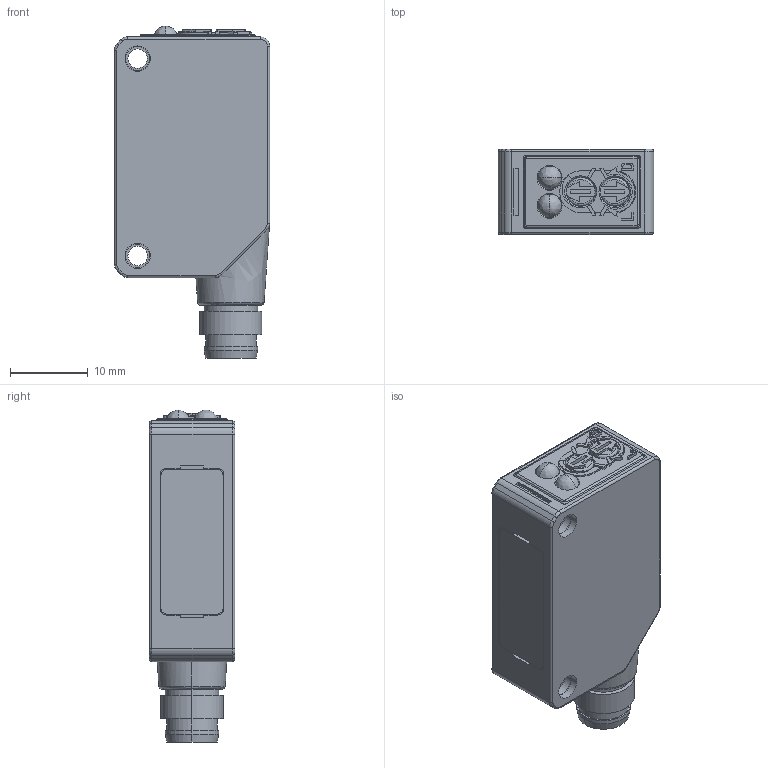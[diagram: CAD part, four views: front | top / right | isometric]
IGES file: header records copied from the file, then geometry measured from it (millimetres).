
Start section: Elysium IGES Interface
Global section: file name: 135H\\fadev.optexgroup.co.jp\技術情報\01_CAD\CAD_data\Horiike_fanas_kyoto\X166_W100-2_IO_LINK\外形寸法図\3D data\IGES\Z4_Connector_Type.igs; native system: CoCreate Modeling 16.50A  01-Dec-2009; preprocessor: CoCreate IGES_3D V2.2; author: Unknown; organization: Unknown; date: 20191004.153713; units: millimetre
Bounding box: 20 x 11 x 42.75 mm (x, y, z)
Volume: 6969.4 mm3; surface area: 3065.3 mm2
Topology: 1 solids, 1 shells, 288 faces, 731 edges, 470 vertices
Faces by surface type: bspline 288
